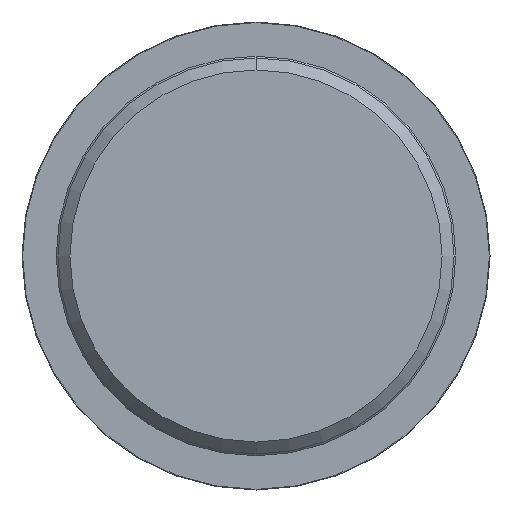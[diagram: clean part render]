
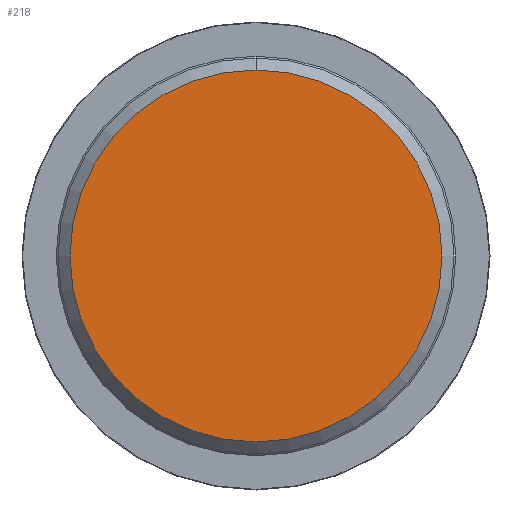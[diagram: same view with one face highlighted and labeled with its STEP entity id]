
A CAD part, front view. The second image highlights one B-rep face of the part: STEP entity #218.
In plain terms, the highlighted planar face has unit normal (0, -1, 0).
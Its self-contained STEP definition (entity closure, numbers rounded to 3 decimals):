
#45 = DIRECTION ( 'NONE',  ( 0., 1., 0. ) ) ;
#59 = EDGE_CURVE ( 'NONE', #818, #821, #549, .T. ) ;
#64 = DIRECTION ( 'NONE',  ( 0., 1., 0. ) ) ;
#117 = CARTESIAN_POINT ( 'NONE',  ( 0., 0., 0. ) ) ;
#183 = AXIS2_PLACEMENT_3D ( 'NONE', #117, #45, #784 ) ;
#218 = ADVANCED_FACE ( 'NONE', ( #962 ), #287, .F. ) ;
#224 = CARTESIAN_POINT ( 'NONE',  ( 0., 0., 15.5 ) ) ;
#285 = CARTESIAN_POINT ( 'NONE',  ( 0., 0., 0. ) ) ;
#287 = PLANE ( 'NONE',  #476 ) ;
#448 = ORIENTED_EDGE ( 'NONE', *, *, #718, .F. ) ;
#476 = AXIS2_PLACEMENT_3D ( 'NONE', #590, #64, #579 ) ;
#478 = ORIENTED_EDGE ( 'NONE', *, *, #59, .F. ) ;
#526 = CARTESIAN_POINT ( 'NONE',  ( 0., 0., -15.5 ) ) ;
#549 = CIRCLE ( 'NONE', #183, 15.5 ) ;
#567 = EDGE_LOOP ( 'NONE', ( #478, #448 ) ) ;
#579 = DIRECTION ( 'NONE',  ( 0., 0., 1. ) ) ;
#590 = CARTESIAN_POINT ( 'NONE',  ( 15.5, 0., 0. ) ) ;
#598 = DIRECTION ( 'NONE',  ( 0., 0., 1. ) ) ;
#630 = AXIS2_PLACEMENT_3D ( 'NONE', #285, #812, #598 ) ;
#718 = EDGE_CURVE ( 'NONE', #821, #818, #801, .T. ) ;
#784 = DIRECTION ( 'NONE',  ( 0., 0., 1. ) ) ;
#801 = CIRCLE ( 'NONE', #630, 15.5 ) ;
#812 = DIRECTION ( 'NONE',  ( 0., 1., 0. ) ) ;
#818 = VERTEX_POINT ( 'NONE', #224 ) ;
#821 = VERTEX_POINT ( 'NONE', #526 ) ;
#962 = FACE_OUTER_BOUND ( 'NONE', #567, .T. ) ;
